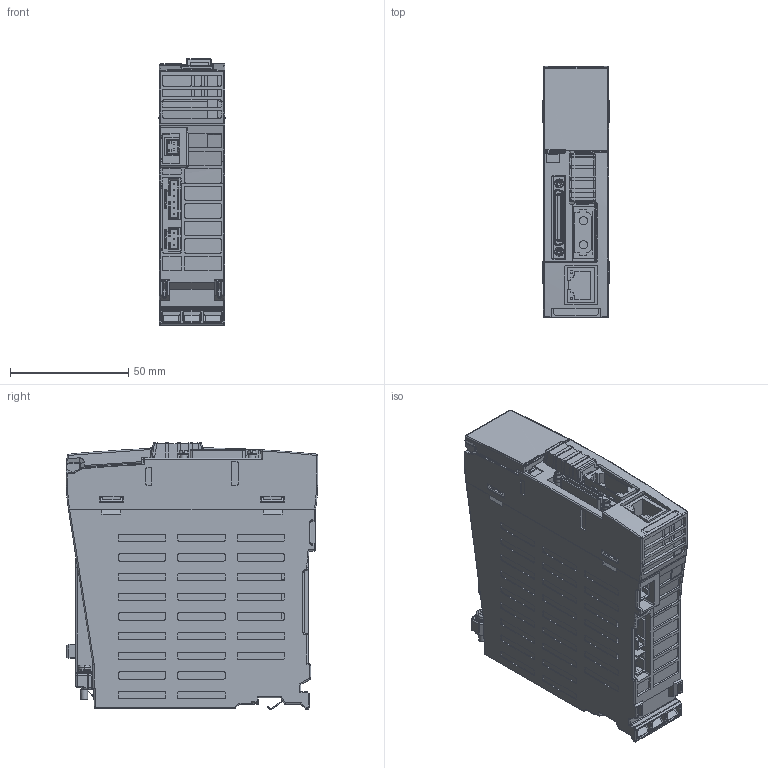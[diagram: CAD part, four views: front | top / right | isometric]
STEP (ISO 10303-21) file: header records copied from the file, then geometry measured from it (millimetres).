
FILE_DESCRIPTION (( 'STEP AP203' ), '1' );
FILE_NAME ('R16RTCPU_170510.STEP', '2017-05-10T09:24:17', ( '' ), ( '' ), 'SwSTEP 2.0', 'SolidWorks 2015', '' );
FILE_SCHEMA (( 'CONFIG_CONTROL_DESIGN' ));
Length unit declared in the file: millimetre
Products named in the file (1): R16RTCPU_170510
Bounding box: 28.2 x 106 x 112.65 mm (x, y, z)
Volume: 283997.9 mm3; surface area: 46581.4 mm2
Topology: 1 solids, 8 shells, 4195 faces, 11315 edges, 7192 vertices
Faces by surface type: plane 2370, cylinder 1513, bspline 99, sphere 94, torus 94, cone 25
Entity records: 138536 total; most frequent: CARTESIAN_POINT 35608, ORIENTED_EDGE 22504, DIRECTION 20219, EDGE_CURVE 11252, LINE 7611, VECTOR 7611, VERTEX_POINT 7192, AXIS2_PLACEMENT_3D 6304
